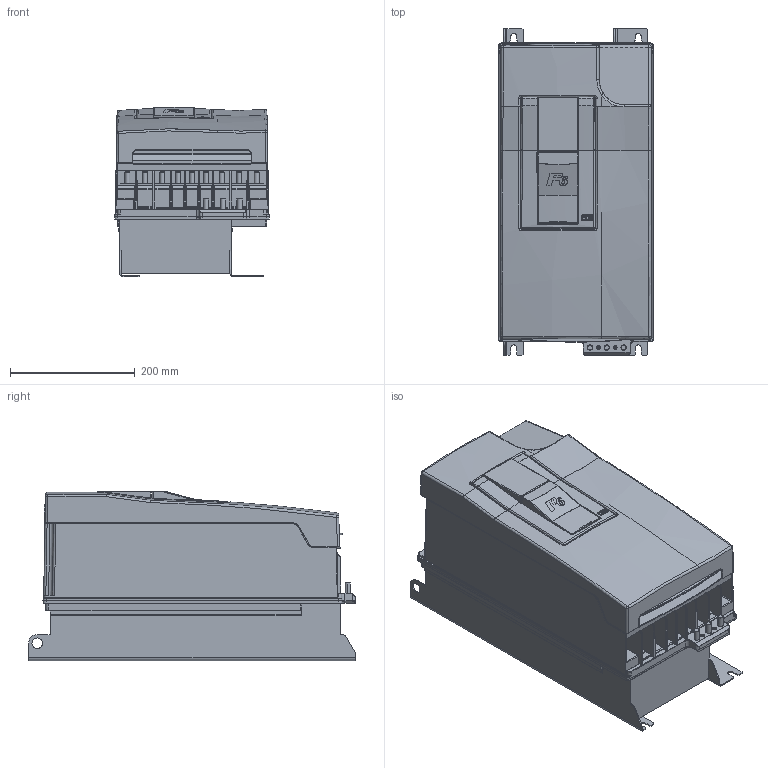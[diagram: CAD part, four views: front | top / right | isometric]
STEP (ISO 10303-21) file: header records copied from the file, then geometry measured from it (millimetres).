
FILE_DESCRIPTION (( 'STEP AP214' ), '1' );
FILE_NAME ('F6-6 TR0 COMBIVERT.STEP', '2020-11-26T10:22:45', ( '' ), ( '' ), 'SwSTEP 2.0', 'SolidWorks 2019', '' );
FILE_SCHEMA (( 'AUTOMOTIVE_DESIGN' ));
Length unit declared in the file: millimetre
Products named in the file (11): 10061794_000; 10059763_000; 10059764_000_Blindabdeckung (Kundenmodell); 10027052_000_Geh„usebaugruppe F6-6 (Kundenmodell); 10035736_000_Kundenmodell; 10060787_000; F6-6 TR0 COMBIVERT; 10028354_000_Basis Leistungsteil F6-6 TR0 (Kundenmodell); 10061793_000_Deckelbaugruppe F6-6; 10059765_000; 10061887_000
Assembly tree (10 placements, depth 4):
  F6-6 TR0 COMBIVERT
    10028354_000_Basis Leistungsteil F6-6 TR0 (Kundenmodell)
      10061887_000
    10027052_000_Geh„usebaugruppe F6-6 (Kundenmodell)
      10061793_000_Deckelbaugruppe F6-6
        10061794_000
      10060787_000
    10035736_000_Kundenmodell
      10059764_000_Blindabdeckung (Kundenmodell)
        10059765_000
      10059763_000
Bounding box: 249 x 525 x 271.9 mm (x, y, z)
Volume: 25429235.4 mm3; surface area: 1369499 mm2
Topology: 12 solids, 19 shells, 2967 faces, 7435 edges, 4434 vertices
Faces by surface type: plane 1053, cylinder 1029, bspline 567, torus 134, sphere 108, cone 76
Entity records: 99871 total; most frequent: CARTESIAN_POINT 33654, ORIENTED_EDGE 14574, DIRECTION 12716, EDGE_CURVE 7287, AXIS2_PLACEMENT_3D 4488, VERTEX_POINT 4432, LINE 3740, VECTOR 3740
